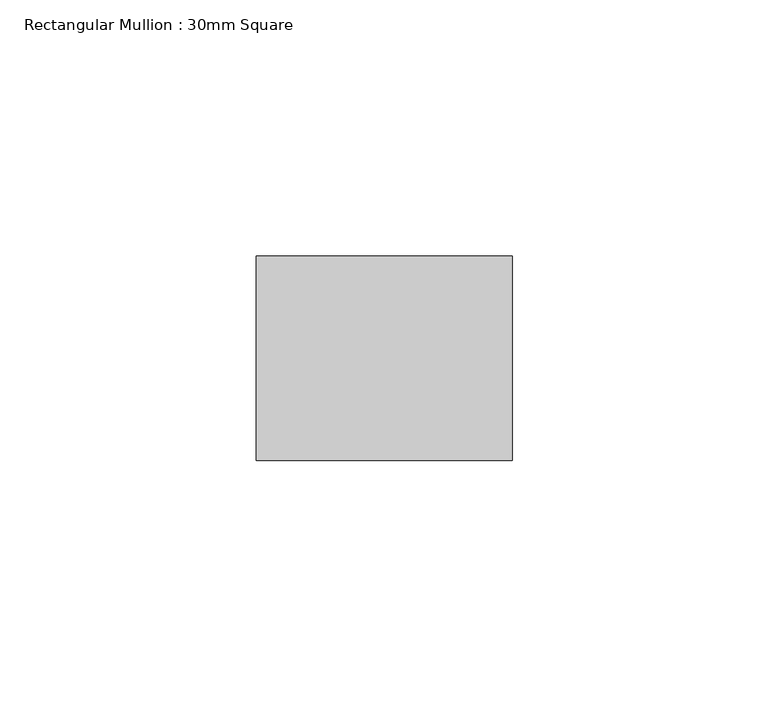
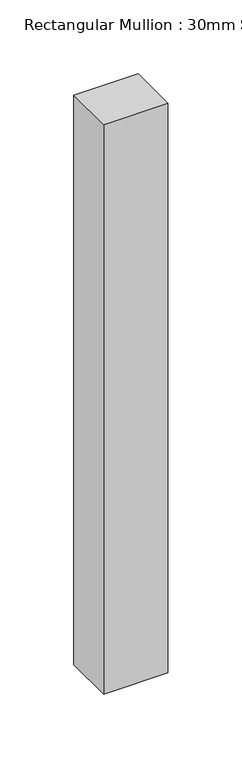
"""IFC4 building model written with IfcOpenShell, lengths in millimetres: member geometry, Rectangular Mullion : 30mm Square."""

from ifc_helpers import new_model, si_unit, frame, origin, place, context, project, spatial, polyline, outline, extrude, source, transform, mapped, element, save


def rectangular_mullion_30mm_square_d37a6e9a(model_context):
    return source(origin(), model_context, "Body", "SweptSolid", [
        extrude(outline(polyline([(25.0, 20.0), (25.0, -20.0), (-25.0, -20.0), (-25.0, 20.0), (25.0, 20.0)])), frame((0.0, 0.0, -470.0), z_axis=(0.0, 0.0, 1.0), x_axis=(1.0, 0.0, 0.0)), (0.0, 0.0, 1.0), 470.0),
    ])


if __name__ == "__main__":
    model = new_model("IFC4")
    model_context = context("Model", 3, world=origin())
    ifc_project = project(units=[si_unit("LENGTHUNIT", "METRE", prefix="MILLI")], contexts=[model_context])
    site = spatial("IfcSite", under=ifc_project)
    building = spatial("IfcBuilding", under=site)
    placement = place(None, origin())
    rectangular_mullion_30mm_square_shape = rectangular_mullion_30mm_square_d37a6e9a(model_context)
    element("IfcMember", 1, ObjectType="Rectangular Mullion : 30mm Square", at=placement, inside=building, context=model_context, shape_type="MappedRepresentation", body=[
        mapped(rectangular_mullion_30mm_square_shape, transform((0.0, 0.0, 0.0), x_axis=(1.0, 0.0, 0.0), y_axis=(0.0, 1.0, 0.0), z_axis=(0.0, 0.0, 1.0))),
    ])
    save(model, "model.ifc")
